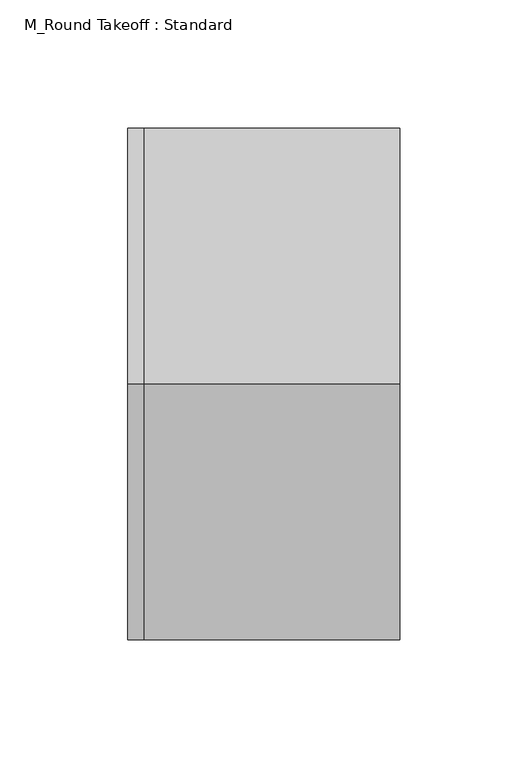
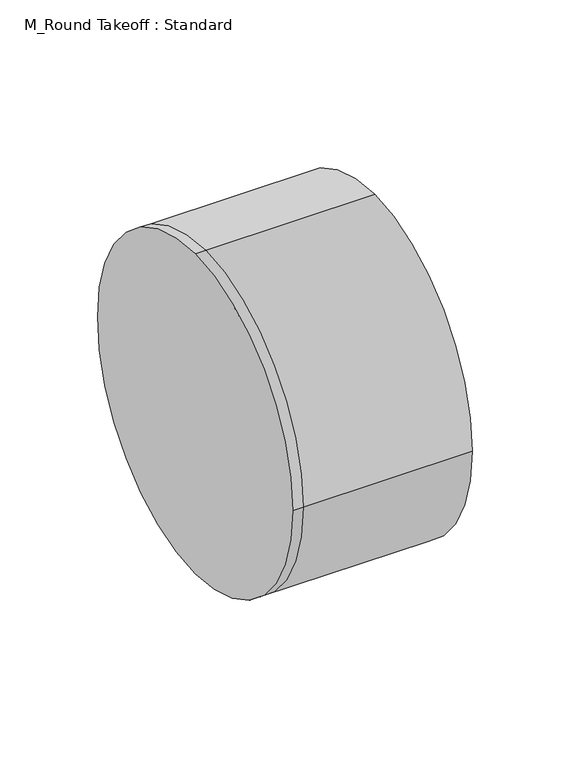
"""IFC4 building model written with IfcOpenShell, lengths in millimetres: duct fitting geometry, M_Round Takeoff : Standard."""

from ifc_helpers import new_model, si_unit, frame, origin, place, context, project, spatial, circle_curve, source, transform, mapped, element, save
from ifc_brep_helpers import plane_surface, cylinder_surface, advanced_brep


def m_round_takeoff_standard_c2403e64(model_context):
    return source(origin(), model_context, "Body", "AdvancedBrep", [
        advanced_brep(
        [(-6.1608392, 0.0, 100.0), (-6.1608392, 100.0, 0.0), (-6.1608392, 0.0, -100.0), (-6.1608392, -100.0, 0.0), (0.0, 0.0, 100.0), (0.0, 100.0, 0.0), (0.0, 0.0, -100.0), (0.0, -100.0, 0.0), (100.0648392, 0.0, 100.0), (100.0648392, -100.0, 0.0), (100.0648392, 0.0, -100.0), (100.0648392, 100.0, 0.0)],
        [
            (0, 1, circle_curve(frame((-6.1608392, 0.0, 0.0), z_axis=(-1.0, 0.0, 0.0), x_axis=(0.0, 1.0, 0.0)), 100.0)),
            (1, 2, circle_curve(frame((-6.1608392, 0.0, 0.0), z_axis=(-1.0, 0.0, 0.0), x_axis=(0.0, 1.0, 0.0)), 100.0)),
            (2, 3, circle_curve(frame((-6.1608392, 0.0, 0.0), z_axis=(-1.0, 0.0, 0.0), x_axis=(0.0, 1.0, 0.0)), 100.0)),
            (3, 0, circle_curve(frame((-6.1608392, 0.0, 0.0), z_axis=(-1.0, 0.0, 0.0), x_axis=(0.0, 1.0, 0.0)), 100.0)),
            (0, 4),
            (4, 5, circle_curve(frame((0.0, 0.0, 0.0), z_axis=(-1.0, 0.0, 0.0), x_axis=(0.0, 1.0, 0.0)), 100.0)),
            (5, 1),
            (5, 6, circle_curve(frame((0.0, 0.0, 0.0), z_axis=(-1.0, 0.0, 0.0), x_axis=(0.0, 1.0, 0.0)), 100.0)),
            (6, 2),
            (6, 7, circle_curve(frame((0.0, 0.0, 0.0), z_axis=(-1.0, 0.0, 0.0), x_axis=(0.0, 1.0, 0.0)), 100.0)),
            (7, 3),
            (7, 4, circle_curve(frame((0.0, 0.0, 0.0), z_axis=(-1.0, 0.0, 0.0), x_axis=(0.0, 1.0, 0.0)), 100.0)),
            (8, 9, circle_curve(frame((100.0648392, 0.0, 0.0), z_axis=(1.0, 0.0, 0.0), x_axis=(0.0, 1.0, 0.0)), 100.0)),
            (9, 10, circle_curve(frame((100.0648392, 0.0, 0.0), z_axis=(1.0, 0.0, 0.0), x_axis=(0.0, 1.0, 0.0)), 100.0)),
            (10, 11, circle_curve(frame((100.0648392, 0.0, 0.0), z_axis=(1.0, 0.0, 0.0), x_axis=(0.0, 1.0, 0.0)), 100.0)),
            (11, 8, circle_curve(frame((100.0648392, 0.0, 0.0), z_axis=(1.0, 0.0, 0.0), x_axis=(0.0, 1.0, 0.0)), 100.0)),
            (11, 5),
            (4, 8),
            (10, 6),
            (9, 7),
        ],
        [
            plane_surface(frame((-6.1608392, 0.0, 0.0), z_axis=(-1.0, 0.0, 0.0), x_axis=(0.0, 0.0, 1.0))),
            cylinder_surface(frame((-6.1608392, 0.0, 0.0), z_axis=(-1.0, 0.0, 0.0), x_axis=(0.0, 1.0, 0.0)), 100.0),
            plane_surface(frame((100.0648392, 0.0, 0.0), z_axis=(1.0, 0.0, 0.0), x_axis=(0.0, 0.0, 1.0))),
            cylinder_surface(frame((0.0, 0.0, 0.0), z_axis=(-1.0, 0.0, 0.0), x_axis=(0.0, 1.0, 0.0)), 100.0),
        ],
        [
            (0, [[1, 2, 3, 4]]),
            (1, [[-1, 5, 6, 7]]),
            (1, [[-2, -7, 8, 9]]),
            (1, [[-3, -9, 10, 11]]),
            (1, [[-4, -11, 12, -5]]),
            (2, [[13, 14, 15, 16]]),
            (3, [[-16, 17, -6, 18]]),
            (3, [[-15, 19, -8, -17]]),
            (3, [[-14, 20, -10, -19]]),
            (3, [[-13, -18, -12, -20]]),
        ],
    ),
        advanced_brep(
        [(100.0648392, 0.0, 100.0), (100.0648392, -100.0, 0.0), (100.0648392, 0.0, -100.0), (100.0648392, 100.0, 0.0), (0.0, 100.0, 0.0), (0.0, 0.0, 100.0), (0.0, 0.0, -100.0), (0.0, -100.0, 0.0), (-6.1608392, 0.0, 100.0), (-6.1608392, 100.0, 0.0), (-6.1608392, 0.0, -100.0), (-6.1608392, -100.0, 0.0)],
        [
            (0, 1, circle_curve(frame((100.0648392, 0.0, 0.0), z_axis=(1.0, 0.0, 0.0), x_axis=(0.0, 1.0, 0.0)), 100.0)),
            (1, 2, circle_curve(frame((100.0648392, 0.0, 0.0), z_axis=(1.0, 0.0, 0.0), x_axis=(0.0, 1.0, 0.0)), 100.0)),
            (2, 3, circle_curve(frame((100.0648392, 0.0, 0.0), z_axis=(1.0, 0.0, 0.0), x_axis=(0.0, 1.0, 0.0)), 100.0)),
            (3, 0, circle_curve(frame((100.0648392, 0.0, 0.0), z_axis=(1.0, 0.0, 0.0), x_axis=(0.0, 1.0, 0.0)), 100.0)),
            (3, 4),
            (4, 5, circle_curve(frame((0.0, 0.0, 0.0), z_axis=(1.0, 0.0, 0.0), x_axis=(0.0, 1.0, 0.0)), 100.0)),
            (5, 0),
            (2, 6),
            (6, 4, circle_curve(frame((0.0, 0.0, 0.0), z_axis=(1.0, 0.0, 0.0), x_axis=(0.0, 1.0, 0.0)), 100.0)),
            (1, 7),
            (7, 6, circle_curve(frame((0.0, 0.0, 0.0), z_axis=(1.0, 0.0, 0.0), x_axis=(0.0, 1.0, 0.0)), 100.0)),
            (5, 7, circle_curve(frame((0.0, 0.0, 0.0), z_axis=(1.0, 0.0, 0.0), x_axis=(0.0, 1.0, 0.0)), 100.0)),
            (8, 9, circle_curve(frame((-6.1608392, 0.0, 0.0), z_axis=(-1.0, 0.0, 0.0), x_axis=(0.0, 1.0, 0.0)), 100.0)),
            (9, 10, circle_curve(frame((-6.1608392, 0.0, 0.0), z_axis=(-1.0, 0.0, 0.0), x_axis=(0.0, 1.0, 0.0)), 100.0)),
            (10, 11, circle_curve(frame((-6.1608392, 0.0, 0.0), z_axis=(-1.0, 0.0, 0.0), x_axis=(0.0, 1.0, 0.0)), 100.0)),
            (11, 8, circle_curve(frame((-6.1608392, 0.0, 0.0), z_axis=(-1.0, 0.0, 0.0), x_axis=(0.0, 1.0, 0.0)), 100.0)),
            (8, 5),
            (4, 9),
            (6, 10),
            (7, 11),
        ],
        [
            plane_surface(frame((100.0648392, 0.0, 0.0), z_axis=(1.0, 0.0, 0.0), x_axis=(0.0, 0.0, 1.0))),
            cylinder_surface(frame((0.0, 0.0, 0.0), z_axis=(-1.0, 0.0, 0.0), x_axis=(0.0, 1.0, 0.0)), 100.0),
            plane_surface(frame((-6.1608392, 0.0, 0.0), z_axis=(-1.0, 0.0, 0.0), x_axis=(0.0, 0.0, 1.0))),
            cylinder_surface(frame((-6.1608392, 0.0, 0.0), z_axis=(-1.0, 0.0, 0.0), x_axis=(0.0, 1.0, 0.0)), 100.0),
        ],
        [
            (0, [[1, 2, 3, 4]]),
            (1, [[-4, 5, 6, 7]]),
            (1, [[-3, 8, 9, -5]]),
            (1, [[-2, 10, 11, -8]]),
            (1, [[-1, -7, 12, -10]]),
            (2, [[13, 14, 15, 16]]),
            (3, [[-13, 17, -6, 18]]),
            (3, [[-14, -18, -9, 19]]),
            (3, [[-15, -19, -11, 20]]),
            (3, [[-16, -20, -12, -17]]),
        ],
    ),
        advanced_brep(
        [(-6.1608392, 0.0, 100.0), (-6.1608392, 100.0, 0.0), (-6.1608392, 0.0, -100.0), (-6.1608392, -100.0, 0.0), (0.0, 0.0, 100.0), (0.0, 100.0, 0.0), (0.0, 0.0, -100.0), (0.0, -100.0, 0.0), (100.0648392, 0.0, 100.0), (100.0648392, -100.0, 0.0), (100.0648392, 0.0, -100.0), (100.0648392, 100.0, 0.0)],
        [
            (0, 1, circle_curve(frame((-6.1608392, 0.0, 0.0), z_axis=(-1.0, 0.0, 0.0), x_axis=(0.0, 1.0, 0.0)), 100.0)),
            (1, 2, circle_curve(frame((-6.1608392, 0.0, 0.0), z_axis=(-1.0, 0.0, 0.0), x_axis=(0.0, 1.0, 0.0)), 100.0)),
            (2, 3, circle_curve(frame((-6.1608392, 0.0, 0.0), z_axis=(-1.0, 0.0, 0.0), x_axis=(0.0, 1.0, 0.0)), 100.0)),
            (3, 0, circle_curve(frame((-6.1608392, 0.0, 0.0), z_axis=(-1.0, 0.0, 0.0), x_axis=(0.0, 1.0, 0.0)), 100.0)),
            (0, 4),
            (4, 5, circle_curve(frame((0.0, 0.0, 0.0), z_axis=(-1.0, 0.0, 0.0), x_axis=(0.0, 1.0, 0.0)), 100.0)),
            (5, 1),
            (5, 6, circle_curve(frame((0.0, 0.0, 0.0), z_axis=(-1.0, 0.0, 0.0), x_axis=(0.0, 1.0, 0.0)), 100.0)),
            (6, 2),
            (6, 7, circle_curve(frame((0.0, 0.0, 0.0), z_axis=(-1.0, 0.0, 0.0), x_axis=(0.0, 1.0, 0.0)), 100.0)),
            (7, 3),
            (7, 4, circle_curve(frame((0.0, 0.0, 0.0), z_axis=(-1.0, 0.0, 0.0), x_axis=(0.0, 1.0, 0.0)), 100.0)),
            (8, 9, circle_curve(frame((100.0648392, 0.0, 0.0), z_axis=(1.0, 0.0, 0.0), x_axis=(0.0, 1.0, 0.0)), 100.0)),
            (9, 10, circle_curve(frame((100.0648392, 0.0, 0.0), z_axis=(1.0, 0.0, 0.0), x_axis=(0.0, 1.0, 0.0)), 100.0)),
            (10, 11, circle_curve(frame((100.0648392, 0.0, 0.0), z_axis=(1.0, 0.0, 0.0), x_axis=(0.0, 1.0, 0.0)), 100.0)),
            (11, 8, circle_curve(frame((100.0648392, 0.0, 0.0), z_axis=(1.0, 0.0, 0.0), x_axis=(0.0, 1.0, 0.0)), 100.0)),
            (11, 5),
            (4, 8),
            (10, 6),
            (9, 7),
        ],
        [
            plane_surface(frame((-6.1608392, 0.0, 0.0), z_axis=(-1.0, 0.0, 0.0), x_axis=(0.0, 0.0, 1.0))),
            cylinder_surface(frame((-6.1608392, 0.0, 0.0), z_axis=(-1.0, 0.0, 0.0), x_axis=(0.0, 1.0, 0.0)), 100.0),
            plane_surface(frame((100.0648392, 0.0, 0.0), z_axis=(1.0, 0.0, 0.0), x_axis=(0.0, 0.0, 1.0))),
            cylinder_surface(frame((0.0, 0.0, 0.0), z_axis=(-1.0, 0.0, 0.0), x_axis=(0.0, 1.0, 0.0)), 100.0),
        ],
        [
            (0, [[1, 2, 3, 4]]),
            (1, [[-1, 5, 6, 7]]),
            (1, [[-2, -7, 8, 9]]),
            (1, [[-3, -9, 10, 11]]),
            (1, [[-4, -11, 12, -5]]),
            (2, [[13, 14, 15, 16]]),
            (3, [[-16, 17, -6, 18]]),
            (3, [[-15, 19, -8, -17]]),
            (3, [[-14, 20, -10, -19]]),
            (3, [[-13, -18, -12, -20]]),
        ],
    ),
    ])


if __name__ == "__main__":
    model = new_model("IFC4")
    model_context = context("Model", 3, world=origin())
    ifc_project = project(units=[si_unit("LENGTHUNIT", "METRE", prefix="MILLI")], contexts=[model_context])
    site = spatial("IfcSite", under=ifc_project)
    building = spatial("IfcBuilding", under=site)
    placement = place(None, origin())
    m_round_takeoff_standard_shape = m_round_takeoff_standard_c2403e64(model_context)
    element("IfcDuctFitting", 1, ObjectType="M_Round Takeoff : Standard", at=placement, inside=building, context=model_context, shape_type="MappedRepresentation", body=[
        mapped(m_round_takeoff_standard_shape, transform((0.0, 0.0, 0.0), x_axis=(1.0, 0.0, 0.0), y_axis=(0.0, 1.0, 0.0), z_axis=(0.0, 0.0, 1.0))),
    ])
    save(model, "model.ifc")
